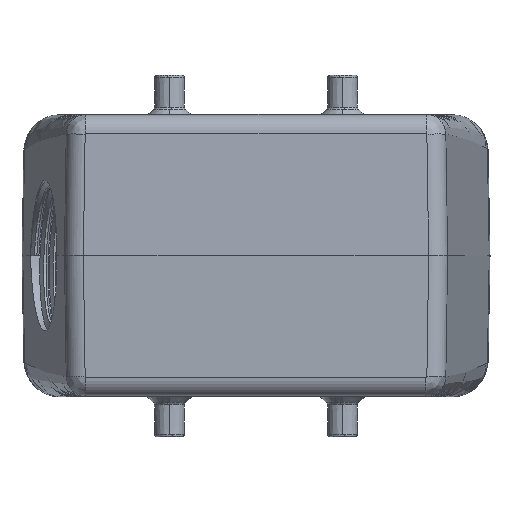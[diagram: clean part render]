
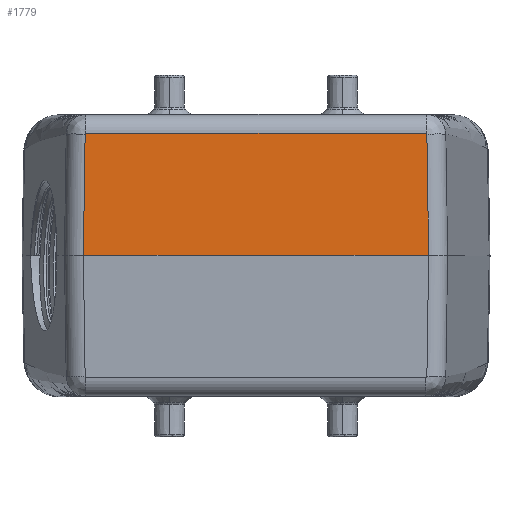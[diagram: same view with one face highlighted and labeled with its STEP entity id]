
A CAD part, top view. The second image highlights one B-rep face of the part: STEP entity #1779.
In plain terms, the highlighted planar face has unit normal (0, 0.018, 1).
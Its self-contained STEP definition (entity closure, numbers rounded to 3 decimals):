
#141 = CARTESIAN_POINT ( 'NONE',  ( -26.653, 18.923, 59.67 ) ) ;
#228 = ORIENTED_EDGE ( 'NONE', *, *, #17411, .F. ) ;
#474 = DIRECTION ( 'NONE',  ( 0., -1., 0.017 ) ) ;
#1558 = CARTESIAN_POINT ( 'NONE',  ( -26.638, 18.991, 59.669 ) ) ;
#1779 = ADVANCED_FACE ( 'NONE', ( #13932 ), #4009, .T. ) ;
#2576 = VERTEX_POINT ( 'NONE', #23796 ) ;
#3224 = CARTESIAN_POINT ( 'NONE',  ( -26.652, 18.957, 59.669 ) ) ;
#3257 = CARTESIAN_POINT ( 'NONE',  ( 26.639, 18.99, 59.669 ) ) ;
#3480 = ORIENTED_EDGE ( 'NONE', *, *, #14910, .F. ) ;
#3764 = ORIENTED_EDGE ( 'NONE', *, *, #15921, .F. ) ;
#3902 = B_SPLINE_CURVE_WITH_KNOTS ( 'NONE', 3,
 ( #23551, #9500, #15770, #11823 ),
 .UNSPECIFIED., .F., .F.,
 ( 4, 4 ),
 ( 0., 1. ),
 .UNSPECIFIED. ) ;
#3979 = VERTEX_POINT ( 'NONE', #141 ) ;
#4009 = PLANE ( 'NONE',  #19864 ) ;
#4177 = CARTESIAN_POINT ( 'NONE',  ( -76.447, 0., 60. ) ) ;
#4194 = VERTEX_POINT ( 'NONE', #15693 ) ;
#4722 = EDGE_CURVE ( 'NONE', #18393, #3979, #3902, .T. ) ;
#4762 = EDGE_CURVE ( 'NONE', #3979, #5241, #5956, .T. ) ;
#4919 = CARTESIAN_POINT ( 'NONE',  ( 26.93, 0., 60. ) ) ;
#5241 = VERTEX_POINT ( 'NONE', #22079 ) ;
#5555 = CARTESIAN_POINT ( 'NONE',  ( 10.25, 0., 60. ) ) ;
#5609 = LINE ( 'NONE', #4177, #25328 ) ;
#5616 = VERTEX_POINT ( 'NONE', #26369 ) ;
#5956 = B_SPLINE_CURVE_WITH_KNOTS ( 'NONE', 3,
 ( #19845, #3224, #1558, #13721, #21975, #23640 ),
 .UNSPECIFIED., .F., .F.,
 ( 4, 2, 4 ),
 ( 0., 0.5, 1. ),
 .UNSPECIFIED. ) ;
#7085 = DIRECTION ( 'NONE',  ( 1., 0., 0. ) ) ;
#7108 = LINE ( 'NONE', #15233, #25578 ) ;
#7608 = VECTOR ( 'NONE', #12172, 1000. ) ;
#7975 = VERTEX_POINT ( 'NONE', #4919 ) ;
#8191 = DIRECTION ( 'NONE',  ( -1., 0., 0. ) ) ;
#9260 = CARTESIAN_POINT ( 'NONE',  ( 26.745, 12.615, 59.78 ) ) ;
#9500 = CARTESIAN_POINT ( 'NONE',  ( -26.838, 6.308, 59.89 ) ) ;
#9814 = EDGE_LOOP ( 'NONE', ( #19207, #228, #3764, #11922, #16719, #20801, #15373, #3480 ) ) ;
#10239 = DIRECTION ( 'NONE',  ( -1., 0., 0. ) ) ;
#10587 = CARTESIAN_POINT ( 'NONE',  ( -76.447, 0., 60. ) ) ;
#10637 = VECTOR ( 'NONE', #8191, 1000. ) ;
#10969 = EDGE_CURVE ( 'NONE', #4194, #5241, #12426, .T. ) ;
#11414 = EDGE_CURVE ( 'NONE', #5616, #4194, #11804, .T. ) ;
#11470 = CARTESIAN_POINT ( 'NONE',  ( 26.652, 18.959, 59.669 ) ) ;
#11804 = B_SPLINE_CURVE_WITH_KNOTS ( 'NONE', 3,
 ( #23673, #11470, #3257, #21821, #25698, #17918 ),
 .UNSPECIFIED., .F., .F.,
 ( 4, 2, 4 ),
 ( 0., 0.5, 1. ),
 .UNSPECIFIED. ) ;
#11823 = CARTESIAN_POINT ( 'NONE',  ( -26.653, 18.923, 59.67 ) ) ;
#11922 = ORIENTED_EDGE ( 'NONE', *, *, #11414, .T. ) ;
#12172 = DIRECTION ( 'NONE',  ( -1., 0., 0. ) ) ;
#12426 = LINE ( 'NONE', #20533, #7608 ) ;
#13721 = CARTESIAN_POINT ( 'NONE',  ( -26.589, 19.039, 59.668 ) ) ;
#13932 = FACE_OUTER_BOUND ( 'NONE', #9814, .T. ) ;
#14910 = EDGE_CURVE ( 'NONE', #2576, #18393, #5609, .T. ) ;
#15233 = CARTESIAN_POINT ( 'NONE',  ( -10.25, 0., 60. ) ) ;
#15373 = ORIENTED_EDGE ( 'NONE', *, *, #4722, .F. ) ;
#15693 = CARTESIAN_POINT ( 'NONE',  ( 26.521, 19.052, 59.667 ) ) ;
#15770 = CARTESIAN_POINT ( 'NONE',  ( -26.745, 12.615, 59.78 ) ) ;
#15921 = EDGE_CURVE ( 'NONE', #5616, #7975, #19343, .T. ) ;
#16111 = LINE ( 'NONE', #22688, #10637 ) ;
#16585 = CARTESIAN_POINT ( 'NONE',  ( -26.93, 0., 60. ) ) ;
#16691 = VERTEX_POINT ( 'NONE', #5555 ) ;
#16719 = ORIENTED_EDGE ( 'NONE', *, *, #10969, .T. ) ;
#16776 = DIRECTION ( 'NONE',  ( 0., 0.017, 1. ) ) ;
#17214 = EDGE_CURVE ( 'NONE', #2576, #16691, #7108, .T. ) ;
#17411 = EDGE_CURVE ( 'NONE', #7975, #16691, #16111, .T. ) ;
#17562 = CARTESIAN_POINT ( 'NONE',  ( 26.653, 18.923, 59.67 ) ) ;
#17918 = CARTESIAN_POINT ( 'NONE',  ( 26.521, 19.052, 59.667 ) ) ;
#18393 = VERTEX_POINT ( 'NONE', #16585 ) ;
#19207 = ORIENTED_EDGE ( 'NONE', *, *, #17214, .T. ) ;
#19343 = B_SPLINE_CURVE_WITH_KNOTS ( 'NONE', 3,
 ( #17562, #9260, #23672, #25791 ),
 .UNSPECIFIED., .F., .F.,
 ( 4, 4 ),
 ( 0., 1. ),
 .UNSPECIFIED. ) ;
#19845 = CARTESIAN_POINT ( 'NONE',  ( -26.653, 18.923, 59.67 ) ) ;
#19864 = AXIS2_PLACEMENT_3D ( 'NONE', #10587, #16776, #474 ) ;
#20533 = CARTESIAN_POINT ( 'NONE',  ( -76.447, 19.052, 59.667 ) ) ;
#20801 = ORIENTED_EDGE ( 'NONE', *, *, #4762, .F. ) ;
#21821 = CARTESIAN_POINT ( 'NONE',  ( 26.588, 19.04, 59.668 ) ) ;
#21975 = CARTESIAN_POINT ( 'NONE',  ( -26.555, 19.052, 59.667 ) ) ;
#22079 = CARTESIAN_POINT ( 'NONE',  ( -26.521, 19.052, 59.667 ) ) ;
#22688 = CARTESIAN_POINT ( 'NONE',  ( -76.447, 0., 60. ) ) ;
#23551 = CARTESIAN_POINT ( 'NONE',  ( -26.93, 0., 60. ) ) ;
#23640 = CARTESIAN_POINT ( 'NONE',  ( -26.521, 19.052, 59.667 ) ) ;
#23672 = CARTESIAN_POINT ( 'NONE',  ( 26.838, 6.308, 59.89 ) ) ;
#23673 = CARTESIAN_POINT ( 'NONE',  ( 26.653, 18.923, 59.67 ) ) ;
#23796 = CARTESIAN_POINT ( 'NONE',  ( -10.25, 0., 60. ) ) ;
#25328 = VECTOR ( 'NONE', #10239, 1000. ) ;
#25578 = VECTOR ( 'NONE', #7085, 1000. ) ;
#25698 = CARTESIAN_POINT ( 'NONE',  ( 26.557, 19.052, 59.667 ) ) ;
#25791 = CARTESIAN_POINT ( 'NONE',  ( 26.93, 0., 60. ) ) ;
#26369 = CARTESIAN_POINT ( 'NONE',  ( 26.653, 18.923, 59.67 ) ) ;
